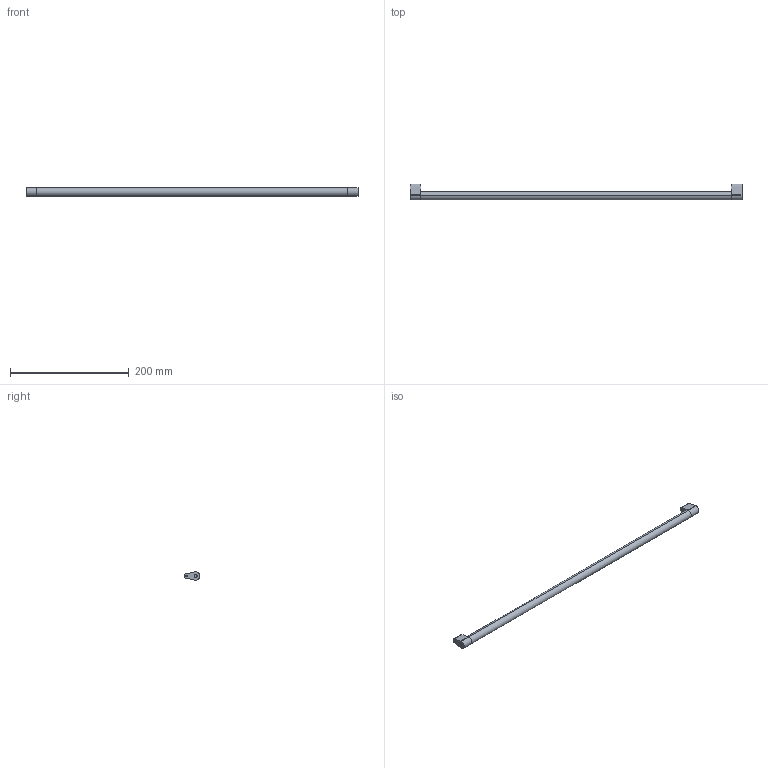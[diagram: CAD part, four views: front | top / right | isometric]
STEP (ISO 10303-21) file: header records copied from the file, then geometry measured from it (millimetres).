
FILE_DESCRIPTION (( 'STEP AP214' ), '1' );
FILE_NAME ('_Synchronisationseinheit Nova Pro KAB650_S19.step', '2010-07-08T13:58:44', ( 'grass' ), ( '' ), 'SwSTEP 2.0', 'SolidWorks 2010', '' );
FILE_SCHEMA (( 'AUTOMOTIVE_DESIGN' ));
Length unit declared in the file: millimetre
Products named in the file (1): _Synchronisationseinheit Nova Pro KAB650_S19
Bounding box: 559 x 26.5 x 14 mm (x, y, z)
Volume: 89738.2 mm3; surface area: 27433.1 mm2
Topology: 3 solids, 3 shells, 36 faces, 78 edges, 52 vertices
Faces by surface type: cylinder 18, plane 18
Entity records: 1050 total; most frequent: DIRECTION 188, CARTESIAN_POINT 167, ORIENTED_EDGE 156, EDGE_CURVE 78, AXIS2_PLACEMENT_3D 73, VERTEX_POINT 52, LINE 42, VECTOR 42
